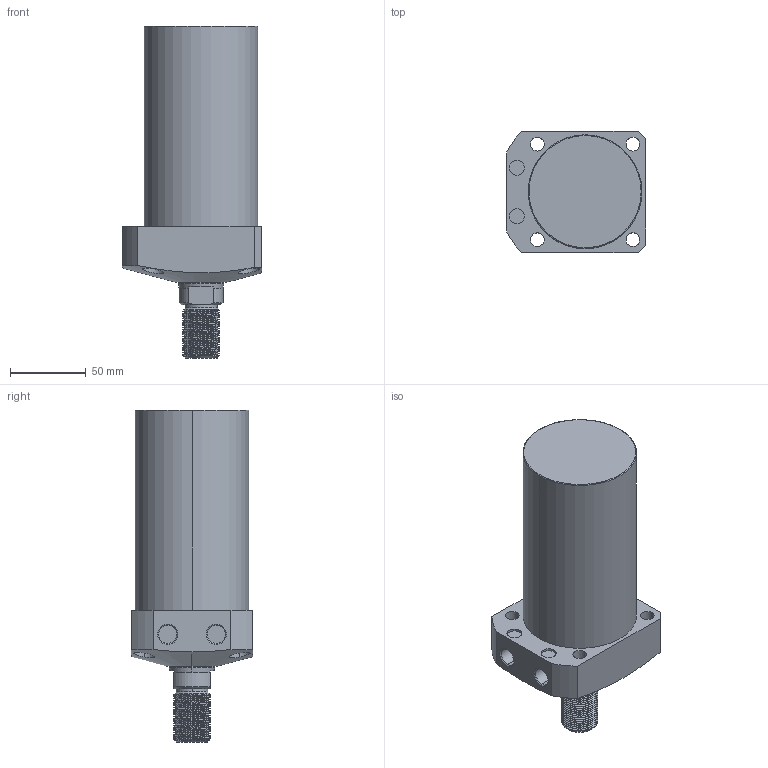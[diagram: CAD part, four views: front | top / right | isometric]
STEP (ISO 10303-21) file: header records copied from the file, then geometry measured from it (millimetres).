
FILE_DESCRIPTION (( 'STEP AP203' ), '1' );
FILE_NAME ('CLL-075CT-095.STEP', '2020-01-08T12:02:44', ( '' ), ( '' ), 'SwSTEP 2.0', 'SolidWorks 2015', '' );
FILE_SCHEMA (( 'CONFIG_CONTROL_DESIGN' ));
Length unit declared in the file: millimetre
Products named in the file (1): CLL-075CT-095
Bounding box: 92 x 80 x 219 mm (x, y, z)
Volume: 824343.7 mm3; surface area: 65970.4 mm2
Topology: 1 solids, 1 shells, 121 faces, 310 edges, 202 vertices
Faces by surface type: cylinder 77, plane 23, cone 17, torus 2, bspline 2
Entity records: 6546 total; most frequent: CARTESIAN_POINT 3756, ORIENTED_EDGE 620, DIRECTION 517, EDGE_CURVE 310, AXIS2_PLACEMENT_3D 204, VERTEX_POINT 202, EDGE_LOOP 140, FACE_OUTER_BOUND 121
